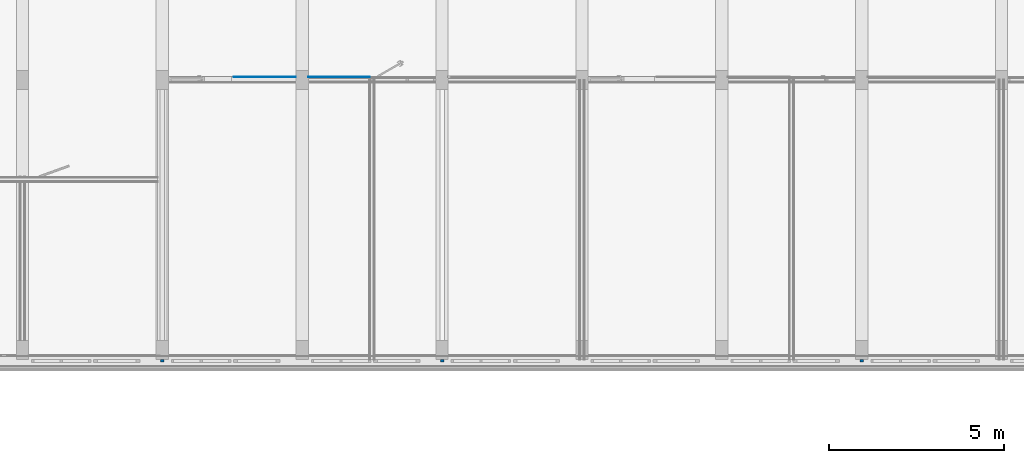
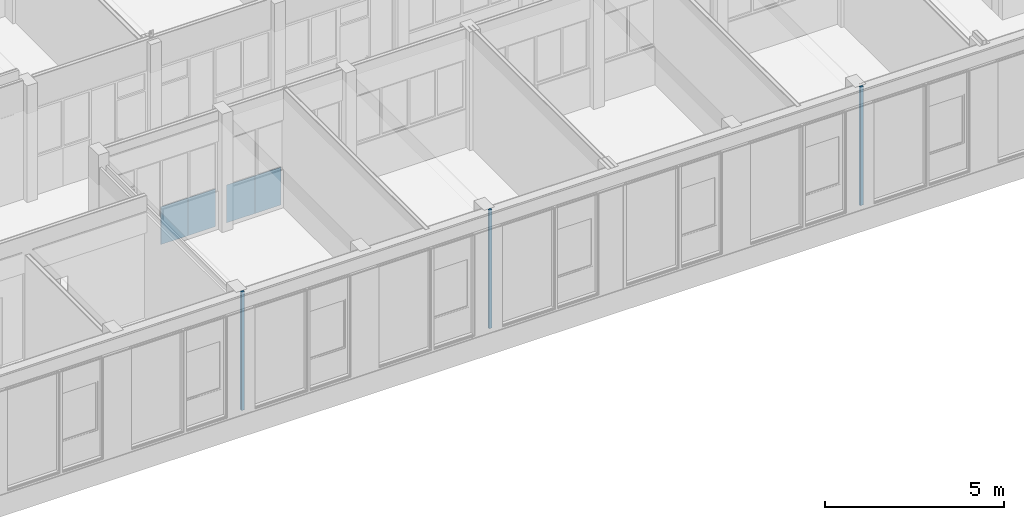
# One storey, part 14 of 54: 7 walls.
"""IFC2X3 building model written with IfcOpenShell, lengths in millimetres."""

from ifc_helpers import new_model, entity, si_unit, converted_unit, derived_unit, money_unit, direction, frame, origin_with_axes, place, context, subcontext, project, spatial, faceted_brep, material, type_object, element, save


model = new_model("IFC2X3")

# Units and contexts
model_context = context("Model", 3, precision=0.01, world=origin_with_axes(), true_north=direction((0.0, 1.0)))
body_context = subcontext(model_context, "Body", "Model", "MODEL_VIEW")
ifc_project = project(units=[si_unit("LENGTHUNIT", "METRE", prefix="MILLI"), si_unit("AREAUNIT", "SQUARE_METRE"), si_unit("VOLUMEUNIT", "CUBIC_METRE"), converted_unit("PLANEANGLEUNIT", "DEGREE", entity("IfcPlaneAngleMeasure", 0.0174532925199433), si_unit("PLANEANGLEUNIT", "RADIAN"), dimensions=[0, 0, 0, 0, 0, 0, 0]), money_unit("EUR"), converted_unit("TIMEUNIT", "Year", entity("IfcTimeMeasure", 31557600.0), si_unit("TIMEUNIT", "SECOND"), dimensions=[0, 0, 1, 0, 0, 0, 0]), si_unit("MASSUNIT", "GRAM", prefix="KILO"), si_unit("THERMODYNAMICTEMPERATUREUNIT", "DEGREE_CELSIUS"), si_unit("LUMINOUSINTENSITYUNIT", "LUMEN"), si_unit("ENERGYUNIT", "JOULE", prefix="MEGA"), derived_unit("THERMALCONDUCTANCEUNIT", [(si_unit("POWERUNIT", "WATT"), 1), (si_unit("LENGTHUNIT", "METRE"), -1), (si_unit("THERMODYNAMICTEMPERATUREUNIT", "KELVIN"), -1)]), derived_unit("SPECIFICHEATCAPACITYUNIT", [(si_unit("ENERGYUNIT", "JOULE"), 1), (si_unit("MASSUNIT", "GRAM", prefix="KILO"), -1), (si_unit("THERMODYNAMICTEMPERATUREUNIT", "KELVIN"), -1)]), derived_unit("MASSDENSITYUNIT", [(si_unit("MASSUNIT", "GRAM", prefix="KILO"), 1), (si_unit("VOLUMEUNIT", "CUBIC_METRE"), -1)])], contexts=[model_context])

# Site, building, storey
site_placement = place(None, origin_with_axes())
site = spatial("IfcSite", under=ifc_project, at=site_placement, Name="<site naam>", CompositionType="ELEMENT")
building_placement = place(site_placement, origin_with_axes())
building = spatial("IfcBuilding", under=site, at=building_placement, Name="<Naam gebouw>", CompositionType="ELEMENT")
storey_placement = place(building_placement, frame((0.0, 0.0, 8500.0), z_axis=(0.0, 0.0, 1.0), x_axis=(1.0, 0.0, 0.0)))
storey = spatial("IfcBuildingStorey", under=building, at=storey_placement, Name="02 2e verdieping", CompositionType="ELEMENT", Elevation=8500.0)

# Walls
ifc_material_1 = material(Name="ALG - BINNENWAND")
wall_type_1 = type_object("IfcWallType", Name="ALG - BINNENWAND 100", PredefinedType="NOTDEFINED")
wall_1_placement = place(storey_placement, frame((20000.00000000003, -64.99999999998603, 0.0), z_axis=(0.0, 0.0, 1.0), x_axis=(0.0, 1.0, 0.0)))
element("IfcWall", 1, at=wall_1_placement, inside=storey, type_object=wall_type_1, material=ifc_material_1, Name="22_Binnenwand_ALG", context=body_context, shape_type="Brep", body=[
    faceted_brep([(65.00000000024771, 49.99999999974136, 4050.000014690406), (64.99999999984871, -50.00000000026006, 4050.000014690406), (64.99999999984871, -50.00000000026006, 0.0), (65.00000000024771, 49.99999999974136, 0.0), (-1.987576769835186e-10, -50.00000000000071, 4050.000014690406), (2.002426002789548e-10, 50.00000000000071, 4050.000014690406), (-1.987576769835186e-10, -50.00000000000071, 0.0), (2.002426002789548e-10, 50.00000000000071, 0.0)], [[[0, 1, 2, 3]], [[4, 1, 0, 5]], [[1, 4, 6, 2]], [[7, 3, 2, 6]], [[5, 0, 3, 7]], [[4, 5, 7, 6]]]),
])
wall_2_placement = place(storey_placement, frame((28000.00000000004, -64.99999999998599, 0.0), z_axis=(0.0, 0.0, 1.0), x_axis=(0.0, 1.0, 0.0)))
element("IfcWall", 2, at=wall_2_placement, inside=storey, type_object=wall_type_1, material=ifc_material_1, Name="22_Binnenwand_ALG", context=body_context, shape_type="Brep", body=[
    faceted_brep([(65.00000000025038, 49.99999999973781, 4050.000014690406), (64.99999999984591, -50.00000000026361, 4050.000014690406), (64.99999999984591, -50.00000000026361, 0.0), (65.00000000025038, 49.99999999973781, 0.0), (-2.015471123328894e-10, -50.00000000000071, 4050.000014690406), (2.02921013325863e-10, 50.00000000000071, 4050.000014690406), (-2.015471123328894e-10, -50.00000000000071, 0.0), (2.02921013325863e-10, 50.00000000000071, 0.0)], [[[0, 1, 2, 3]], [[4, 1, 0, 5]], [[1, 4, 6, 2]], [[7, 3, 2, 6]], [[5, 0, 3, 7]], [[4, 5, 7, 6]]]),
])
wall_3_placement = place(storey_placement, frame((40000.00000000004, -64.99999999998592, 0.0), z_axis=(0.0, 0.0, 1.0), x_axis=(0.0, 1.0, 0.0)))
element("IfcWall", 3, at=wall_3_placement, inside=storey, type_object=wall_type_1, material=ifc_material_1, Name="22_Binnenwand_ALG", context=body_context, shape_type="Brep", body=[
    faceted_brep([(65.00000000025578, 49.99999999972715, 4050.000014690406), (64.9999999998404, -50.00000000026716, 4050.000014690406), (64.9999999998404, -50.00000000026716, 0.0), (65.00000000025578, 49.99999999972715, 0.0), (-2.070704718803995e-10, -49.99999999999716, 4050.000014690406), (2.083194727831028e-10, 49.99999999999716, 4050.000014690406), (-2.070704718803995e-10, -49.99999999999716, 0.0), (2.083194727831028e-10, 49.99999999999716, 0.0)], [[[0, 1, 2, 3]], [[4, 1, 0, 5]], [[1, 4, 6, 2]], [[7, 3, 2, 6]], [[5, 0, 3, 7]], [[4, 5, 7, 6]]]),
])
ifc_material_2 = material(Name="ALG - BUITENAFWERKING")
wall_type_2 = type_object("IfcWallType", Name="ALG - BUITENAFWERKING 10", PredefinedType="NOTDEFINED")
wall_4_placement = place(storey_placement, frame((24175.00000000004, 8075.000000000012, 5.421610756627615), z_axis=(0.0, 0.0, 1.0), x_axis=(1.0, 0.0, 0.0)))
element("IfcWall", 4, at=wall_4_placement, inside=storey, type_object=wall_type_2, material=ifc_material_2, Name="42_Binnenwand_ALG", context=body_context, shape_type="Brep", body=[
    faceted_brep([(0.0, 0.0, 1292.000000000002), (912.5924806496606, 0.0, 1292.000000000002), (912.5924806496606, 9.999999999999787, 1292.000000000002), (0.0, 9.999999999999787, 1292.000000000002), (0.0, 0.0, 0.0), (912.5924806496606, 0.0, 0.0), (912.5924806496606, 9.999999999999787, 0.0), (0.0, 9.999999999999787, 0.0)], [[[0, 1, 2, 3]], [[4, 5, 1, 0]], [[2, 1, 5, 6]], [[3, 2, 6, 7]], [[4, 0, 3, 7]], [[7, 6, 5, 4]]]),
])
wall_5_placement = place(storey_placement, frame((25091.5924806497, 8075.000000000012, 5.421610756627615), z_axis=(0.0, 0.0, 1.0), x_axis=(1.0, 0.0, 0.0)))
element("IfcWall", 5, at=wall_5_placement, inside=storey, type_object=wall_type_2, material=ifc_material_2, Name="42_Binnenwand_ALG", context=body_context, shape_type="Brep", body=[
    faceted_brep([(0.0, 0.0, 1292.000000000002), (845.5425069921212, 0.0, 1292.000000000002), (845.5425069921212, 9.999999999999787, 1292.000000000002), (0.0, 9.999999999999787, 1292.000000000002), (0.0, 0.0, 0.0), (845.5425069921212, 0.0, 0.0), (845.5425069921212, 9.999999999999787, 0.0), (0.0, 9.999999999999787, 0.0)], [[[0, 1, 2, 3]], [[4, 5, 1, 0]], [[2, 1, 5, 6]], [[3, 2, 6, 7]], [[4, 0, 3, 7]], [[7, 6, 5, 4]]]),
])
wall_6_placement = place(storey_placement, frame((22920.5889657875, 8075.000000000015, 5.421610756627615), z_axis=(0.0, 0.0, 1.0), x_axis=(1.0, 0.0, 0.0)))
element("IfcWall", 6, at=wall_6_placement, inside=storey, type_object=wall_type_2, material=ifc_material_2, Name="42_Binnenwand_ALG", context=body_context, shape_type="Brep", body=[
    faceted_brep([(0.0, 0.0, 1292.000000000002), (900.4110342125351, 0.0, 1292.000000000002), (900.4110342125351, 9.999999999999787, 1292.000000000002), (0.0, 9.999999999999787, 1292.000000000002), (0.0, 0.0, 0.0), (900.4110342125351, 0.0, 0.0), (900.4110342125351, 9.999999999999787, 0.0), (0.0, 9.999999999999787, 0.0)], [[[0, 1, 2, 3]], [[4, 5, 1, 0]], [[2, 1, 5, 6]], [[3, 2, 6, 7]], [[4, 0, 3, 7]], [[7, 6, 5, 4]]]),
])
wall_7_placement = place(storey_placement, frame((22043.83562238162, 8075.000000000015, 5.421610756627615), z_axis=(0.0, 0.0, 1.0), x_axis=(1.0, 0.0, 0.0)))
element("IfcWall", 7, at=wall_7_placement, inside=storey, type_object=wall_type_2, material=ifc_material_2, Name="42_Binnenwand_ALG", context=body_context, shape_type="Brep", body=[
    faceted_brep([(0.0, 0.0, 1292.000000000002), (872.7533434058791, 0.0, 1292.000000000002), (872.7533434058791, 9.999999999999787, 1292.000000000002), (0.0, 9.999999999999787, 1292.000000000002), (0.0, 0.0, 0.0), (872.7533434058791, 0.0, 0.0), (872.7533434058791, 9.999999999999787, 0.0), (0.0, 9.999999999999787, 0.0)], [[[0, 1, 2, 3]], [[4, 5, 1, 0]], [[2, 1, 5, 6]], [[3, 2, 6, 7]], [[4, 0, 3, 7]], [[7, 6, 5, 4]]]),
])

save(model, "model.ifc")
